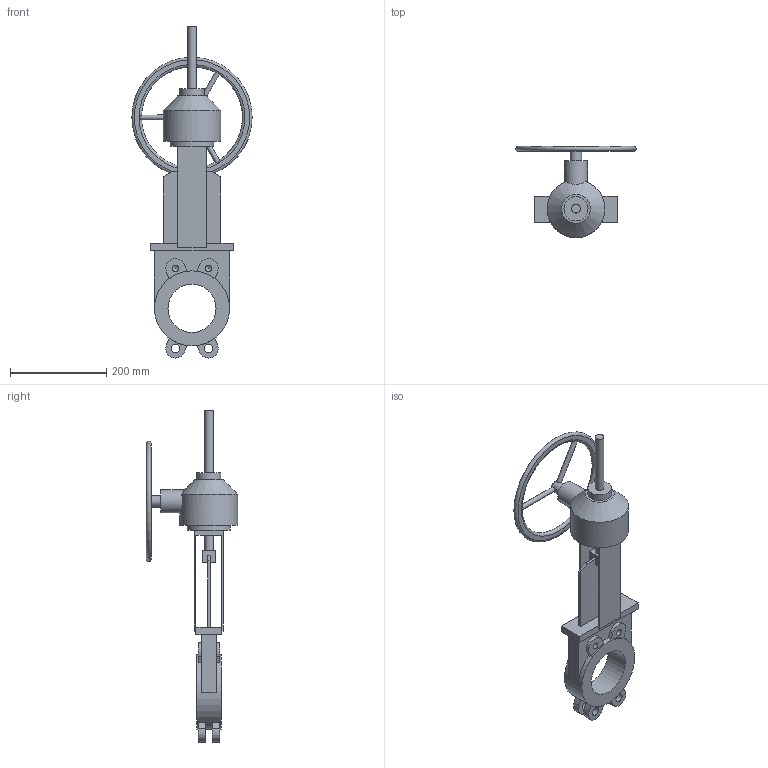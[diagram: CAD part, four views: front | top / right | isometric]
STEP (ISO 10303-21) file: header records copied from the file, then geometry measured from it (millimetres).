
FILE_DESCRIPTION(('STEP AP203'), '1');
FILE_NAME('Çàäâèæêà øèáåðíàÿ K21GV DN100 ðåäóêòîð+âûäâèæíîé øïèíäåëü', '', ('UNSPECIFIED'), ('UNSPECIFIED'), 'ASCON STEP Converter 1.6', 'ASCON Math Kernel', '');
FILE_SCHEMA(('CONFIG_CONTROL_DESIGN'));
Length unit declared in the file: millimetre
Bounding box: 250 x 190 x 690.13 mm (x, y, z)
Volume: 2590944.4 mm3; surface area: 329626.9 mm2
Topology: 1 solids, 1 shells, 110 faces, 288 edges, 185 vertices
Faces by surface type: plane 73, cylinder 28, cone 5, torus 4
Full cylindrical faces by diameter (mm): 10 x3, 13.835 x4, 18 x6, 24 x1, 48 x1, 50 x1, 90 x1, 100 x1, 120 x1, 156 x1
Entity records: 5531 total; most frequent: CARTESIAN_POINT 1960, DIRECTION 546, ORIENTED_EDGE 514, EDGE_CURVE 257, AXIS2_PLACEMENT_3D 193, VERTEX_POINT 181, EDGE_LOOP 162, LINE 160
